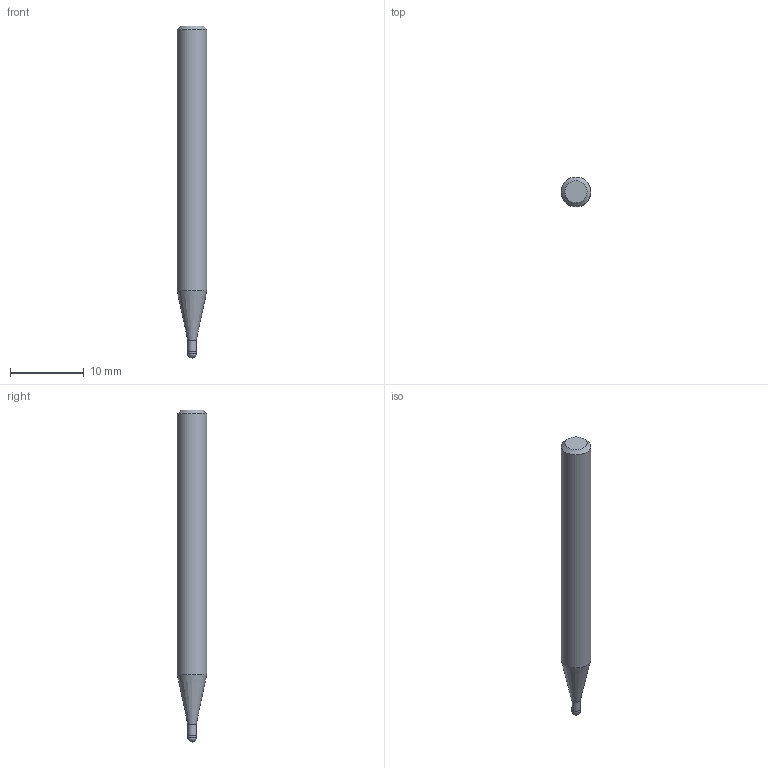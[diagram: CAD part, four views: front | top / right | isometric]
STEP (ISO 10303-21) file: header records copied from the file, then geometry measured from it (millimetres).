
FILE_DESCRIPTION((''),'2;1');
FILE_NAME('C:\Users\nsx150\AppData\Local\Temp\Mastercam 2021\3SYKECWX22\TEMP.step','2021-04-22T10:02:40',(''),(''),'STEP Write','Mastercam 2021 ... CNC Software, Inc.','');
FILE_SCHEMA(('AUTOMOTIVE_DESIGN'));
Length unit declared in the file: millimetre
Products named in the file (1): None
Bounding box: 4 x 4 x 45 mm (x, y, z)
Volume: 490.5 mm3; surface area: 526.1 mm2
Topology: 2 solids, 2 shells, 9 faces, 14 edges, 8 vertices
Faces by surface type: plane 3, cylinder 3, cone 2, sphere 1
Full cylindrical faces by diameter (mm): 1.15 x1, 1.2 x1, 4 x1
Entity records: 211 total; most frequent: DIRECTION 36, CARTESIAN_POINT 25, AXIS2_PLACEMENT_3D 18, ORIENTED_EDGE 14, EDGE_LOOP 14, STYLED_ITEM 12, ADVANCED_FACE 9, FACE_BOUND 8
